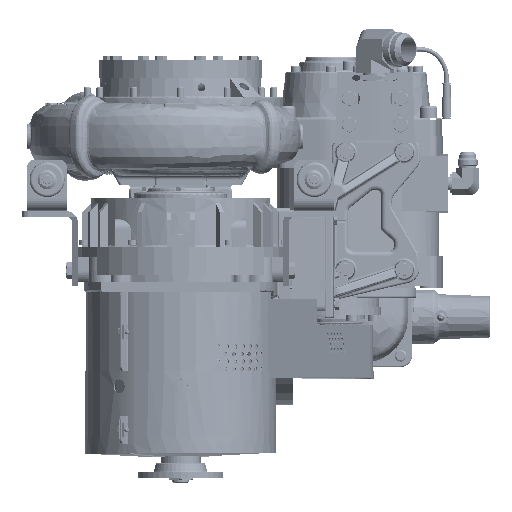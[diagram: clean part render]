
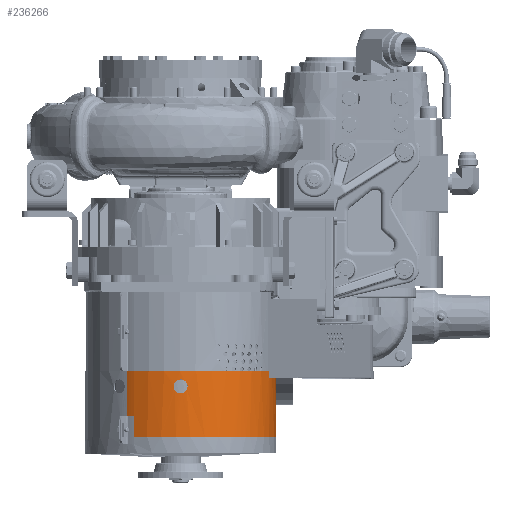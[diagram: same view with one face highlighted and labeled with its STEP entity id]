
A CAD part, front view. The second image highlights one B-rep face of the part: STEP entity #236266.
In plain terms, the highlighted cylindrical face has radius 130.175 mm (diameter 260.35 mm), a partial arc.
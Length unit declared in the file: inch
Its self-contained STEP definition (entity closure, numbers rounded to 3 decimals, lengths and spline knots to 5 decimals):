
#231211=CARTESIAN_POINT('',(-0.375,-5.11126,-6.96));
#231212=CARTESIAN_POINT('',(-0.375,-5.11126,-6.91955));
#231213=CARTESIAN_POINT('',(-0.36261,-5.11219,
-6.84293));
#231214=CARTESIAN_POINT('',(-0.30848,-5.11586,
-6.73584));
#231215=CARTESIAN_POINT('',(-0.22401,-5.12041,
-6.65156));
#231216=CARTESIAN_POINT('',(-0.11765,-5.12407,
-6.59738));
#231217=CARTESIAN_POINT('',(0.,-5.12546,
-6.57881));
#231218=CARTESIAN_POINT('',(0.11765,-5.12407,
-6.59738));
#231219=CARTESIAN_POINT('',(0.22401,-5.12041,
-6.65156));
#231220=CARTESIAN_POINT('',(0.30848,-5.11586,
-6.73584));
#231221=CARTESIAN_POINT('',(0.36261,-5.11219,
-6.84293));
#231222=CARTESIAN_POINT('',(0.375,-5.11126,-6.91955));
#231223=CARTESIAN_POINT('',(0.375,-5.11126,-6.96));
#231225=CARTESIAN_POINT('',(0.375,-5.11126,-6.96));
#231226=CARTESIAN_POINT('',(0.375,-5.11126,-7.00045));
#231227=CARTESIAN_POINT('',(0.36261,-5.11219,
-7.07707));
#231228=CARTESIAN_POINT('',(0.30848,-5.11586,
-7.18416));
#231229=CARTESIAN_POINT('',(0.22401,-5.12041,
-7.26844));
#231230=CARTESIAN_POINT('',(0.11765,-5.12407,
-7.32262));
#231231=CARTESIAN_POINT('',(0.,-5.12546,
-7.34119));
#231232=CARTESIAN_POINT('',(-0.11765,-5.12407,
-7.32262));
#231233=CARTESIAN_POINT('',(-0.22401,-5.12041,
-7.26844));
#231234=CARTESIAN_POINT('',(-0.30848,-5.11586,
-7.18416));
#231235=CARTESIAN_POINT('',(-0.36261,-5.11219,
-7.07707));
#231236=CARTESIAN_POINT('',(-0.375,-5.11126,-7.00045));
#231237=CARTESIAN_POINT('',(-0.375,-5.11126,-6.96));
#231239=CARTESIAN_POINT('',(0.,0.,-8.53));
#231240=DIRECTION('',(0.,0.,-1.));
#231241=DIRECTION('',(0.563,0.827,0.));
#231242=AXIS2_PLACEMENT_3D('',#231239,#231240,#231241);
#231244=DIRECTION('',(0.,0.,-1.));
#231245=VECTOR('',#231244,1.12);
#231246=CARTESIAN_POINT('',(3.24132,3.96982,-8.53));
#231247=LINE('',#231246,#231245);
#231248=CARTESIAN_POINT('',(0.,0.,-9.65));
#231249=DIRECTION('',(0.,0.,-1.));
#231250=DIRECTION('',(0.632,0.775,0.));
#231251=AXIS2_PLACEMENT_3D('',#231248,#231249,#231250);
#231253=CARTESIAN_POINT('',(0.,0.,-9.65));
#231254=DIRECTION('',(0.,0.,-1.));
#231255=DIRECTION('',(0.679,0.734,0.));
#231256=AXIS2_PLACEMENT_3D('',#231253,#231254,#231255);
#231258=CARTESIAN_POINT('',(0.,0.,-9.65));
#231259=DIRECTION('',(0.,0.,-1.));
#231260=DIRECTION('',(0.925,-0.379,0.));
#231261=AXIS2_PLACEMENT_3D('',#231258,#231259,#231260);
#231263=CARTESIAN_POINT('',(0.,0.,-9.65));
#231264=DIRECTION('',(0.,0.,-1.));
#231265=DIRECTION('',(0.725,-0.688,0.));
#231266=AXIS2_PLACEMENT_3D('',#231263,#231264,#231265);
#231268=CARTESIAN_POINT('',(0.,0.,-9.65));
#231269=DIRECTION('',(0.,0.,-1.));
#231270=DIRECTION('',(0.586,-0.811,0.));
#231271=AXIS2_PLACEMENT_3D('',#231268,#231269,#231270);
#231273=CARTESIAN_POINT('',(0.,0.,-9.65));
#231274=DIRECTION('',(0.,0.,-1.));
#231275=DIRECTION('',(0.532,-0.847,0.));
#231276=AXIS2_PLACEMENT_3D('',#231273,#231274,#231275);
#231278=DIRECTION('',(0.,0.,1.));
#231279=VECTOR('',#231278,1.12);
#231280=CARTESIAN_POINT('',(-2.50273,-4.47236,-9.65));
#231281=LINE('',#231280,#231279);
#231282=CARTESIAN_POINT('',(0.,0.,-8.53));
#231283=DIRECTION('',(0.,0.,-1.));
#231284=DIRECTION('',(-0.488,-0.873,0.));
#231285=AXIS2_PLACEMENT_3D('',#231282,#231283,#231284);
#231287=DIRECTION('',(0.,0.,-1.));
#231288=VECTOR('',#231287,2.375);
#231289=CARTESIAN_POINT('',(-2.88299,-4.23721,-6.155));
#231290=LINE('',#231289,#231288);
#231291=CARTESIAN_POINT('',(0.,0.,-6.155));
#231292=DIRECTION('',(0.,0.,-1.));
#231293=DIRECTION('',(-0.488,-0.873,0.));
#231294=AXIS2_PLACEMENT_3D('',#231291,#231292,#231293);
#231296=CARTESIAN_POINT('',(0.,0.,-6.155));
#231297=DIRECTION('',(0.,0.,1.));
#231298=DIRECTION('',(-0.488,-0.873,0.));
#231299=AXIS2_PLACEMENT_3D('',#231296,#231297,#231298);
#231301=DIRECTION('',(0.,0.,-1.));
#231302=VECTOR('',#231301,0.375);
#231303=CARTESIAN_POINT('',(4.7253,-1.98424,-6.155));
#231304=LINE('',#231303,#231302);
#231305=CARTESIAN_POINT('',(0.,0.,-6.53));
#231306=DIRECTION('',(0.,0.,1.));
#231307=DIRECTION('',(0.922,-0.387,0.));
#231308=AXIS2_PLACEMENT_3D('',#231305,#231306,#231307);
#231310=CARTESIAN_POINT('',(0.,0.,-6.53));
#231311=DIRECTION('',(0.,0.,1.));
#231312=DIRECTION('',(0.958,-0.285,0.));
#231313=AXIS2_PLACEMENT_3D('',#231310,#231311,#231312);
#231315=DIRECTION('',(0.,0.,-1.));
#231316=VECTOR('',#231315,2.);
#231317=CARTESIAN_POINT('',(2.88299,4.23721,-6.53));
#231318=LINE('',#231317,#231316);
#235460=CARTESIAN_POINT('',(4.7253,-1.98424,-6.155));
#235461=CARTESIAN_POINT('',(4.7253,-1.98424,-6.53));
#235462=VERTEX_POINT('',#235460);
#235463=VERTEX_POINT('',#235461);
#235466=CARTESIAN_POINT('',(4.91202,-1.46209,-6.53));
#235467=VERTEX_POINT('',#235466);
#235468=VERTEX_POINT('',#231211);
#235469=VERTEX_POINT('',#231223);
#235551=CARTESIAN_POINT('',(2.88299,4.23721,-6.53));
#235552=VERTEX_POINT('',#235551);
#235591=CARTESIAN_POINT('',(-2.50273,-4.47236,-6.155));
#235592=CARTESIAN_POINT('',(-2.88299,-4.23721,-6.155));
#235593=VERTEX_POINT('',#235591);
#235594=VERTEX_POINT('',#235592);
#235603=CARTESIAN_POINT('',(2.88299,4.23721,-8.53));
#235604=CARTESIAN_POINT('',(3.24132,3.96982,-8.53));
#235605=VERTEX_POINT('',#235603);
#235606=VERTEX_POINT('',#235604);
#235607=CARTESIAN_POINT('',(-2.50273,-4.47236,-8.53));
#235608=CARTESIAN_POINT('',(-2.88299,-4.23721,-8.53));
#235609=VERTEX_POINT('',#235607);
#235610=VERTEX_POINT('',#235608);
#235611=CARTESIAN_POINT('',(-2.50273,-4.47236,-9.65));
#235612=VERTEX_POINT('',#235611);
#235613=CARTESIAN_POINT('',(3.24132,3.96982,-9.65));
#235614=VERTEX_POINT('',#235613);
#235767=CARTESIAN_POINT('',(3.71758,-3.52777,-9.65));
#235768=CARTESIAN_POINT('',(3.00175,-4.15393,-9.65));
#235769=VERTEX_POINT('',#235767);
#235770=VERTEX_POINT('',#235768);
#235775=CARTESIAN_POINT('',(2.72752,-4.33892,-9.65));
#235776=VERTEX_POINT('',#235775);
#235779=CARTESIAN_POINT('',(4.74295,-1.94165,-9.65));
#235780=VERTEX_POINT('',#235779);
#235808=CARTESIAN_POINT('',(3.48223,3.76028,-9.65));
#235809=VERTEX_POINT('',#235808);
#236222=CARTESIAN_POINT('',(0.,0.,-6.53));
#236223=DIRECTION('',(0.,0.,-1.));
#236224=DIRECTION('',(1.,0.,0.));
#236225=AXIS2_PLACEMENT_3D('',#236222,#236223,#236224);
#236226=CYLINDRICAL_SURFACE('',#236225,5.125);
#236228=ORIENTED_EDGE('',*,*,#236227,.T.);
#236230=ORIENTED_EDGE('',*,*,#236229,.T.);
#236232=ORIENTED_EDGE('',*,*,#236231,.T.);
#236234=ORIENTED_EDGE('',*,*,#236233,.T.);
#236236=ORIENTED_EDGE('',*,*,#236235,.T.);
#236238=ORIENTED_EDGE('',*,*,#236237,.T.);
#236240=ORIENTED_EDGE('',*,*,#236239,.T.);
#236242=ORIENTED_EDGE('',*,*,#236241,.T.);
#236244=ORIENTED_EDGE('',*,*,#236243,.T.);
#236246=ORIENTED_EDGE('',*,*,#236245,.T.);
#236247=ORIENTED_EDGE('',*,*,#236048,.F.);
#236248=ORIENTED_EDGE('',*,*,#236017,.F.);
#236250=ORIENTED_EDGE('',*,*,#236249,.T.);
#236252=ORIENTED_EDGE('',*,*,#236251,.T.);
#236254=ORIENTED_EDGE('',*,*,#236253,.T.);
#236256=ORIENTED_EDGE('',*,*,#236255,.T.);
#236257=ORIENTED_EDGE('',*,*,#236131,.T.);
#236258=EDGE_LOOP('',(#236228,#236230,#236232,#236234,#236236,#236238,#236240,
#236242,#236244,#236246,#236247,#236248,#236250,#236252,#236254,#236256,
#236257));
#236259=FACE_OUTER_BOUND('',#236258,.F.);
#236261=ORIENTED_EDGE('',*,*,#236260,.F.);
#236263=ORIENTED_EDGE('',*,*,#236262,.F.);
#236264=EDGE_LOOP('',(#236261,#236263));
#236265=FACE_BOUND('',#236264,.F.);
#236266=ADVANCED_FACE('',(#236259,#236265),#236226,.T.);
#231224=B_SPLINE_CURVE_WITH_KNOTS('',3,(#231211,#231212,#231213,#231214,#231215,
#231216,#231217,#231218,#231219,#231220,#231221,#231222,#231223),.UNSPECIFIED.,
.F.,.F.,(4,1,1,1,1,1,1,1,1,1,4),(0.,0.1,0.2,0.3,0.4,0.5,0.6,0.7,
0.8,0.9,1.),.UNSPECIFIED.);
#231238=B_SPLINE_CURVE_WITH_KNOTS('',3,(#231225,#231226,#231227,#231228,#231229,
#231230,#231231,#231232,#231233,#231234,#231235,#231236,#231237),.UNSPECIFIED.,
.F.,.F.,(4,1,1,1,1,1,1,1,1,1,4),(0.,0.1,0.2,0.3,0.4,0.5,0.6,0.7,
0.8,0.9,1.),.UNSPECIFIED.);
#231243=CIRCLE('',#231242,5.125);
#231252=CIRCLE('',#231251,5.125);
#231257=CIRCLE('',#231256,5.125);
#231262=CIRCLE('',#231261,5.125);
#231267=CIRCLE('',#231266,5.125);
#231272=CIRCLE('',#231271,5.125);
#231277=CIRCLE('',#231276,5.125);
#231286=CIRCLE('',#231285,5.125);
#231295=CIRCLE('',#231294,5.125);
#231300=CIRCLE('',#231299,5.125);
#231309=CIRCLE('',#231308,5.125);
#231314=CIRCLE('',#231313,5.125);
#236017=EDGE_CURVE('',#235593,#235594,#231295,.T.);
#236048=EDGE_CURVE('',#235594,#235610,#231290,.T.);
#236131=EDGE_CURVE('',#235552,#235605,#231318,.T.);
#236227=EDGE_CURVE('',#235605,#235606,#231243,.T.);
#236229=EDGE_CURVE('',#235606,#235614,#231247,.T.);
#236231=EDGE_CURVE('',#235614,#235809,#231252,.T.);
#236233=EDGE_CURVE('',#235809,#235780,#231257,.T.);
#236235=EDGE_CURVE('',#235780,#235769,#231262,.T.);
#236237=EDGE_CURVE('',#235769,#235770,#231267,.T.);
#236239=EDGE_CURVE('',#235770,#235776,#231272,.T.);
#236241=EDGE_CURVE('',#235776,#235612,#231277,.T.);
#236243=EDGE_CURVE('',#235612,#235609,#231281,.T.);
#236245=EDGE_CURVE('',#235609,#235610,#231286,.T.);
#236249=EDGE_CURVE('',#235593,#235462,#231300,.T.);
#236251=EDGE_CURVE('',#235462,#235463,#231304,.T.);
#236253=EDGE_CURVE('',#235463,#235467,#231309,.T.);
#236255=EDGE_CURVE('',#235467,#235552,#231314,.T.);
#236260=EDGE_CURVE('',#235468,#235469,#231224,.T.);
#236262=EDGE_CURVE('',#235469,#235468,#231238,.T.);
